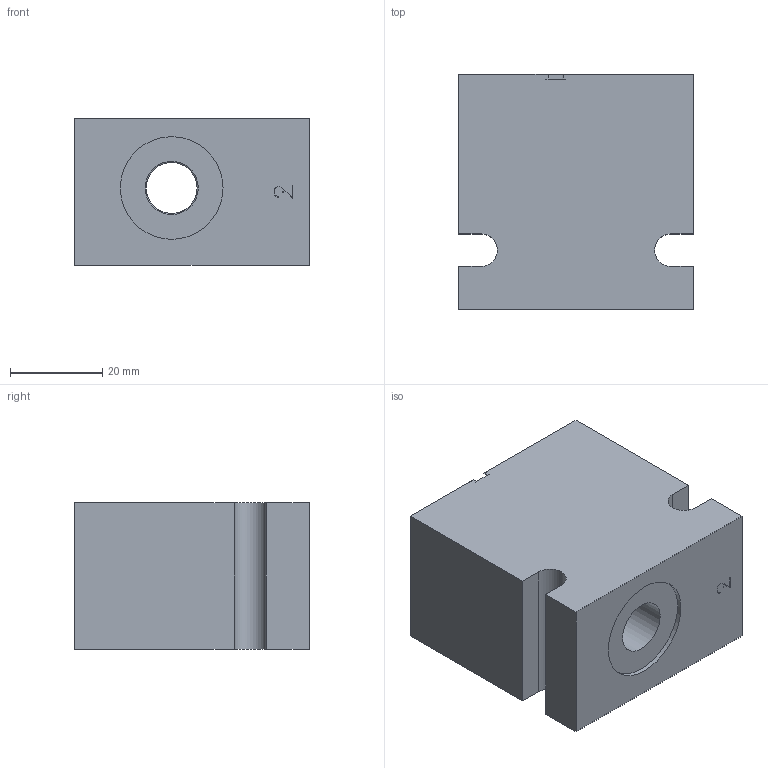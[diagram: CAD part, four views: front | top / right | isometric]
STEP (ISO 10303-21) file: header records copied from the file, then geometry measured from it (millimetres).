
FILE_DESCRIPTION( ( 'Unknown' ), '1' );
FILE_NAME( 'G:/Graphic Design/Graphic Design 2/Data Sheets/Delta Bodies/DRAWINGS/B-DPBA2.stp', 'Unknown', ( 'Unknown' ), ( 'Unknown' ), 'PSStep 16.0.42', 'Unknown', ' ' );
FILE_SCHEMA( ( 'AUTOMOTIVE_DESIGN { 1 0 10303 214 1 1 1 1 }' ) );
Length unit declared in the file: millimetre
Products named in the file (2): Assem1; B-DPBA2
Assembly tree (1 placements, depth 2):
  Assem1
    B-DPBA2
Bounding box: 50.8 x 50.8 x 31.75 mm (x, y, z)
Surface area: 14969.2 mm2 (no closed solid volume)
Topology: 0 solids, 78 shells, 78 faces, 387 edges, 369 vertices
Faces by surface type: plane 57, cylinder 16, cone 5
Full cylindrical faces by diameter (mm): 0.2 x2, 11 x2, 11.5 x4, 12.7 x1, 17.33 x2, 22.22 x2
Entity records: 4274 total; most frequent: CARTESIAN_POINT 1100, DIRECTION 426, ORIENTED_EDGE 358, EDGE_CURVE 358, VERTEX_POINT 358, B_SPLINE_CURVE_WITH_KNOTS 152, LINE 146, VECTOR 146
